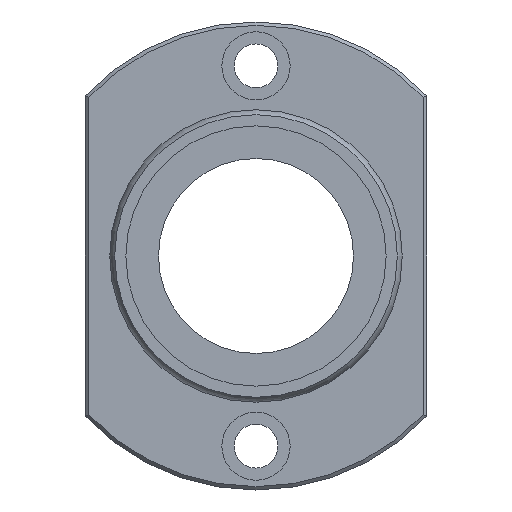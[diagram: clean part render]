
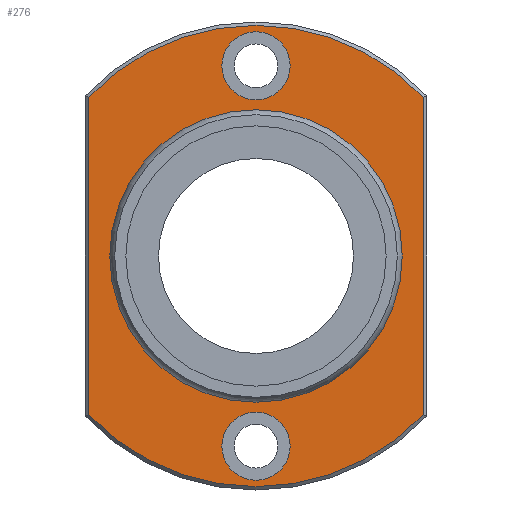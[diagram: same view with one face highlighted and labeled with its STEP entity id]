
A CAD part, left-side view. The second image highlights one B-rep face of the part: STEP entity #276.
In plain terms, the highlighted planar face has unit normal (-1, 0, 0).
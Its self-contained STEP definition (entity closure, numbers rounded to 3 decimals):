
#59=CARTESIAN_POINT('',(70.0,-34.3,32.57));
#60=VERTEX_POINT('',#59);
#68=CARTESIAN_POINT('',(70.0,-34.3,-32.57));
#69=VERTEX_POINT('',#68);
#70=CARTESIAN_POINT('',(70.0,-34.3,32.57));
#71=DIRECTION('',(0.0,0.0,-1.0));
#72=VECTOR('',#71,65.14);
#73=LINE('',#70,#72);
#74=EDGE_CURVE('',#60,#69,#73,.T.);
#101=CARTESIAN_POINT('',(70.0,34.3,-32.57));
#102=VERTEX_POINT('',#101);
#103=CARTESIAN_POINT('',(70.0,0.0,0.0));
#104=DIRECTION('',(1.0,0.0,0.0));
#105=DIRECTION('',(0.0,0.0,-1.0));
#106=AXIS2_PLACEMENT_3D('',#103,#104,#105);
#107=CIRCLE('',#106,47.3);
#108=EDGE_CURVE('',#69,#102,#107,.T.);
#134=CARTESIAN_POINT('',(70.0,34.3,32.57));
#135=VERTEX_POINT('',#134);
#136=CARTESIAN_POINT('',(70.0,34.3,-32.57));
#137=DIRECTION('',(0.0,0.0,1.0));
#138=VECTOR('',#137,65.14);
#139=LINE('',#136,#138);
#140=EDGE_CURVE('',#102,#135,#139,.T.);
#165=CARTESIAN_POINT('',(70.0,0.0,0.0));
#166=DIRECTION('',(1.0,0.0,0.0));
#167=DIRECTION('',(0.0,0.0,1.0));
#168=AXIS2_PLACEMENT_3D('',#165,#166,#167);
#169=CIRCLE('',#168,47.3);
#170=EDGE_CURVE('',#135,#60,#169,.T.);
#232=CARTESIAN_POINT('',(70.0,0.0,38.834));
#233=DIRECTION('',(-1.0,0.0,0.0));
#234=DIRECTION('',(0.0,0.0,1.0));
#235=AXIS2_PLACEMENT_3D('',#232,#233,#234);
#236=PLANE('',#235);
#237=ORIENTED_EDGE('',*,*,#74,.F.);
#238=ORIENTED_EDGE('',*,*,#170,.F.);
#239=ORIENTED_EDGE('',*,*,#140,.F.);
#240=ORIENTED_EDGE('',*,*,#108,.F.);
#241=EDGE_LOOP('',(#237,#238,#239,#240));
#242=FACE_OUTER_BOUND('',#241,.T.);
#243=CARTESIAN_POINT('',(70.0,0.0,29.668));
#244=VERTEX_POINT('',#243);
#245=CARTESIAN_POINT('',(70.0,0.0,0.0));
#246=DIRECTION('',(-1.0,0.0,0.0));
#247=DIRECTION('',(0.0,0.0,1.0));
#248=AXIS2_PLACEMENT_3D('',#245,#246,#247);
#249=CIRCLE('',#248,29.668);
#250=EDGE_CURVE('',#244,#244,#249,.T.);
#251=ORIENTED_EDGE('',*,*,#250,.F.);
#252=EDGE_LOOP('',(#251));
#253=FACE_BOUND('',#252,.T.);
#254=CARTESIAN_POINT('',(70.0,7.,-39.0));
#255=VERTEX_POINT('',#254);
#256=CARTESIAN_POINT('',(70.0,0.,-39.0));
#257=DIRECTION('',(1.0,0.0,0.0));
#258=DIRECTION('',(0.0,1.0,0.0));
#259=AXIS2_PLACEMENT_3D('',#256,#257,#258);
#260=CIRCLE('',#259,7.);
#261=EDGE_CURVE('',#255,#255,#260,.T.);
#262=ORIENTED_EDGE('',*,*,#261,.T.);
#263=EDGE_LOOP('',(#262));
#264=FACE_BOUND('',#263,.T.);
#265=CARTESIAN_POINT('',(70.0,7.,39.0));
#266=VERTEX_POINT('',#265);
#267=CARTESIAN_POINT('',(70.0,0.,39.0));
#268=DIRECTION('',(1.0,0.0,0.0));
#269=DIRECTION('',(0.0,1.0,0.0));
#270=AXIS2_PLACEMENT_3D('',#267,#268,#269);
#271=CIRCLE('',#270,7.);
#272=EDGE_CURVE('',#266,#266,#271,.T.);
#273=ORIENTED_EDGE('',*,*,#272,.T.);
#274=EDGE_LOOP('',(#273));
#275=FACE_BOUND('',#274,.T.);
#276=ADVANCED_FACE('',(#242,#253,#264,#275),#236,.T.);
